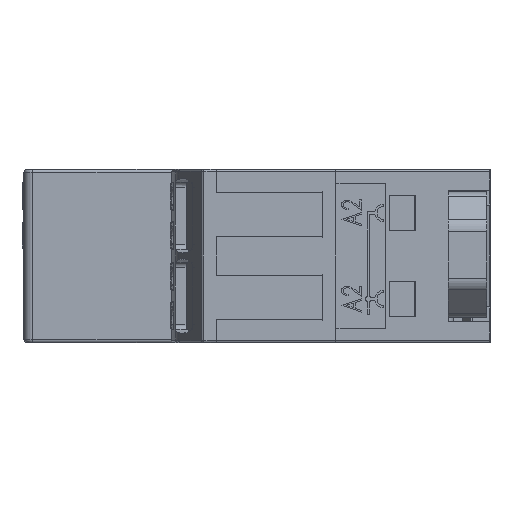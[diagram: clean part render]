
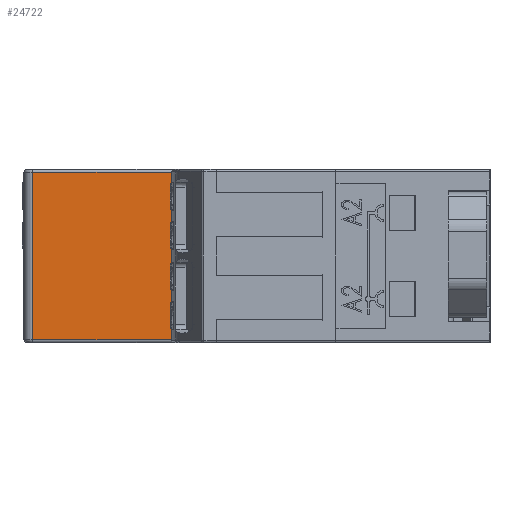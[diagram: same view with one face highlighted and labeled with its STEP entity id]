
A CAD part, left-side view. The second image highlights one B-rep face of the part: STEP entity #24722.
In plain terms, the highlighted planar face has unit normal (-1, 0, 0).
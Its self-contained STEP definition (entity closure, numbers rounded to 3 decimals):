
#746 = CARTESIAN_POINT ( 'NONE',  ( 7.244, -0.196, 17.35 ) ) ;
#2157 = DIRECTION ( 'NONE',  ( 0., 0., -1. ) ) ;
#2279 = LINE ( 'NONE', #18406, #96416 ) ;
#4887 = ORIENTED_EDGE ( 'NONE', *, *, #30268, .T. ) ;
#4894 = VECTOR ( 'NONE', #57712, 1000. ) ;
#5900 = EDGE_LOOP ( 'NONE', ( #56402, #4887, #82563, #57508, #70078, #32270, #35244, #6165, #76448, #8238, #18248, #14604, #8014, #39585 ) ) ;
#6165 = ORIENTED_EDGE ( 'NONE', *, *, #41717, .F. ) ;
#7134 = CARTESIAN_POINT ( 'NONE',  ( 7.244, 5.704, 18.723 ) ) ;
#7700 = VECTOR ( 'NONE', #14099, 1000. ) ;
#7872 = CARTESIAN_POINT ( 'NONE',  ( 7.244, 6.704, 31.65 ) ) ;
#8014 = ORIENTED_EDGE ( 'NONE', *, *, #33545, .T. ) ;
#8238 = ORIENTED_EDGE ( 'NONE', *, *, #9194, .F. ) ;
#9194 = EDGE_CURVE ( 'NONE', #55372, #80989, #29227, .T. ) ;
#9539 = EDGE_CURVE ( 'NONE', #23639, #80989, #48853, .T. ) ;
#9716 = VERTEX_POINT ( 'NONE', #36679 ) ;
#10716 = VECTOR ( 'NONE', #51342, 1000. ) ;
#11999 = DIRECTION ( 'NONE',  ( 0., 1., 0. ) ) ;
#12266 = CARTESIAN_POINT ( 'NONE',  ( 7.244, -0.196, 30.1 ) ) ;
#14099 = DIRECTION ( 'NONE',  ( 0., 0., -1. ) ) ;
#14264 = VECTOR ( 'NONE', #31520, 1000. ) ;
#14604 = ORIENTED_EDGE ( 'NONE', *, *, #69348, .F. ) ;
#14826 = DIRECTION ( 'NONE',  ( 0., 0., -1. ) ) ;
#16944 = FACE_OUTER_BOUND ( 'NONE', #5900, .T. ) ;
#18248 = ORIENTED_EDGE ( 'NONE', *, *, #91523, .F. ) ;
#18406 = CARTESIAN_POINT ( 'NONE',  ( 7.244, 6.704, 17.35 ) ) ;
#19846 = VECTOR ( 'NONE', #51590, 1000. ) ;
#20575 = CARTESIAN_POINT ( 'NONE',  ( 7.244, 5.704, 28.726 ) ) ;
#20672 = DIRECTION ( 'NONE',  ( 0., -1., 0. ) ) ;
#21823 = CARTESIAN_POINT ( 'NONE',  ( 7.244, -0.196, 30.1 ) ) ;
#23552 = CARTESIAN_POINT ( 'NONE',  ( 7.244, 5.704, 17.6 ) ) ;
#23639 = VERTEX_POINT ( 'NONE', #7134 ) ;
#24722 = ADVANCED_FACE ( 'NONE', ( #16944 ), #69427, .F. ) ;
#24987 = LINE ( 'NONE', #50160, #4894 ) ;
#26928 = LINE ( 'NONE', #35000, #44175 ) ;
#27357 = CIRCLE ( 'NONE', #54789, 0.25 ) ;
#27690 = VERTEX_POINT ( 'NONE', #98357 ) ;
#27801 = CARTESIAN_POINT ( 'NONE',  ( 7.244, -0.196, 17.35 ) ) ;
#29227 = LINE ( 'NONE', #83233, #7700 ) ;
#30268 = EDGE_CURVE ( 'NONE', #27690, #87257, #88603, .T. ) ;
#31520 = DIRECTION ( 'NONE',  ( 0., 0., -1. ) ) ;
#31549 = VECTOR ( 'NONE', #20672, 1000. ) ;
#31611 = VECTOR ( 'NONE', #78166, 1000. ) ;
#31923 = EDGE_CURVE ( 'NONE', #72588, #68643, #26928, .T. ) ;
#32270 = ORIENTED_EDGE ( 'NONE', *, *, #88528, .F. ) ;
#33229 = LINE ( 'NONE', #64003, #31611 ) ;
#33545 = EDGE_CURVE ( 'NONE', #84945, #68643, #27357, .T. ) ;
#34480 = CARTESIAN_POINT ( 'NONE',  ( 7.244, 6.704, 28.726 ) ) ;
#34682 = VERTEX_POINT ( 'NONE', #98488 ) ;
#35000 = CARTESIAN_POINT ( 'NONE',  ( 7.244, 6.704, 30.1 ) ) ;
#35244 = ORIENTED_EDGE ( 'NONE', *, *, #56540, .T. ) ;
#35303 = CARTESIAN_POINT ( 'NONE',  ( 7.244, -0.196, 16.1 ) ) ;
#36679 = CARTESIAN_POINT ( 'NONE',  ( 7.244, 5.704, 28.726 ) ) ;
#37993 = CARTESIAN_POINT ( 'NONE',  ( 7.244, 19.404, 16.1 ) ) ;
#38246 = EDGE_CURVE ( 'NONE', #87257, #40585, #76404, .T. ) ;
#39019 = VECTOR ( 'NONE', #14826, 1000. ) ;
#39149 = EDGE_CURVE ( 'NONE', #79127, #56546, #69881, .T. ) ;
#39585 = ORIENTED_EDGE ( 'NONE', *, *, #31923, .F. ) ;
#39632 = DIRECTION ( 'NONE',  ( 0., 1., 0. ) ) ;
#40585 = VERTEX_POINT ( 'NONE', #37993 ) ;
#40934 = CIRCLE ( 'NONE', #97353, 0.25 ) ;
#41717 = EDGE_CURVE ( 'NONE', #23639, #73760, #24987, .T. ) ;
#42137 = CARTESIAN_POINT ( 'NONE',  ( 7.244, 5.454, 30.1 ) ) ;
#44175 = VECTOR ( 'NONE', #57677, 1000. ) ;
#45147 = CARTESIAN_POINT ( 'NONE',  ( 7.244, 5.454, 17.6 ) ) ;
#46028 = EDGE_CURVE ( 'NONE', #72588, #27690, #84404, .T. ) ;
#46157 = DIRECTION ( 'NONE',  ( 1., 0., 0. ) ) ;
#48853 = LINE ( 'NONE', #56393, #51278 ) ;
#49171 = DIRECTION ( 'NONE',  ( 0., -1., 0. ) ) ;
#50160 = CARTESIAN_POINT ( 'NONE',  ( 7.244, 5.704, 17.35 ) ) ;
#51278 = VECTOR ( 'NONE', #11999, 1000. ) ;
#51342 = DIRECTION ( 'NONE',  ( 0., 1., 0. ) ) ;
#51433 = LINE ( 'NONE', #35303, #31549 ) ;
#51590 = DIRECTION ( 'NONE',  ( 0., 0., 1. ) ) ;
#54789 = AXIS2_PLACEMENT_3D ( 'NONE', #77859, #62676, #2157 ) ;
#55372 = VERTEX_POINT ( 'NONE', #34480 ) ;
#56393 = CARTESIAN_POINT ( 'NONE',  ( 7.244, 5.704, 18.723 ) ) ;
#56402 = ORIENTED_EDGE ( 'NONE', *, *, #46028, .T. ) ;
#56540 = EDGE_CURVE ( 'NONE', #34682, #73760, #40934, .T. ) ;
#56546 = VERTEX_POINT ( 'NONE', #68387 ) ;
#57508 = ORIENTED_EDGE ( 'NONE', *, *, #69079, .T. ) ;
#57677 = DIRECTION ( 'NONE',  ( 0., 1., 0. ) ) ;
#57712 = DIRECTION ( 'NONE',  ( 0., 0., -1. ) ) ;
#60715 = CARTESIAN_POINT ( 'NONE',  ( 7.244, 19.404, 15.8 ) ) ;
#60785 = CARTESIAN_POINT ( 'NONE',  ( 7.244, 6.704, 18.723 ) ) ;
#62305 = VECTOR ( 'NONE', #65382, 1000. ) ;
#62676 = DIRECTION ( 'NONE',  ( 1., 0., 0. ) ) ;
#64003 = CARTESIAN_POINT ( 'NONE',  ( 7.244, 5.704, 30.1 ) ) ;
#65382 = DIRECTION ( 'NONE',  ( 0., 1., 0. ) ) ;
#66535 = AXIS2_PLACEMENT_3D ( 'NONE', #7872, #94148, #39632 ) ;
#66883 = CARTESIAN_POINT ( 'NONE',  ( 7.244, 6.704, 31.35 ) ) ;
#68387 = CARTESIAN_POINT ( 'NONE',  ( 7.244, -0.196, 16.1 ) ) ;
#68643 = VERTEX_POINT ( 'NONE', #42137 ) ;
#69079 = EDGE_CURVE ( 'NONE', #40585, #56546, #51433, .T. ) ;
#69348 = EDGE_CURVE ( 'NONE', #84945, #9716, #33229, .T. ) ;
#69427 = PLANE ( 'NONE',  #66535 ) ;
#69881 = LINE ( 'NONE', #746, #14264 ) ;
#70078 = ORIENTED_EDGE ( 'NONE', *, *, #39149, .F. ) ;
#72372 = CARTESIAN_POINT ( 'NONE',  ( 7.244, 19.404, 31.35 ) ) ;
#72588 = VERTEX_POINT ( 'NONE', #12266 ) ;
#73760 = VERTEX_POINT ( 'NONE', #23552 ) ;
#76404 = LINE ( 'NONE', #60715, #39019 ) ;
#76448 = ORIENTED_EDGE ( 'NONE', *, *, #9539, .T. ) ;
#76956 = DIRECTION ( 'NONE',  ( 0., 0., -1. ) ) ;
#77859 = CARTESIAN_POINT ( 'NONE',  ( 7.244, 5.454, 29.85 ) ) ;
#78166 = DIRECTION ( 'NONE',  ( 0., 0., -1. ) ) ;
#79127 = VERTEX_POINT ( 'NONE', #27801 ) ;
#80989 = VERTEX_POINT ( 'NONE', #60785 ) ;
#82563 = ORIENTED_EDGE ( 'NONE', *, *, #38246, .T. ) ;
#83233 = CARTESIAN_POINT ( 'NONE',  ( 7.244, 6.704, 31.65 ) ) ;
#84153 = CARTESIAN_POINT ( 'NONE',  ( 7.244, 5.704, 29.85 ) ) ;
#84404 = LINE ( 'NONE', #21823, #19846 ) ;
#84945 = VERTEX_POINT ( 'NONE', #84153 ) ;
#87257 = VERTEX_POINT ( 'NONE', #72372 ) ;
#88528 = EDGE_CURVE ( 'NONE', #34682, #79127, #2279, .T. ) ;
#88603 = LINE ( 'NONE', #66883, #62305 ) ;
#91523 = EDGE_CURVE ( 'NONE', #9716, #55372, #98263, .T. ) ;
#94148 = DIRECTION ( 'NONE',  ( 1., 0., 0. ) ) ;
#96416 = VECTOR ( 'NONE', #49171, 1000. ) ;
#97353 = AXIS2_PLACEMENT_3D ( 'NONE', #45147, #46157, #76956 ) ;
#98263 = LINE ( 'NONE', #20575, #10716 ) ;
#98357 = CARTESIAN_POINT ( 'NONE',  ( 7.244, -0.196, 31.35 ) ) ;
#98488 = CARTESIAN_POINT ( 'NONE',  ( 7.244, 5.454, 17.35 ) ) ;
